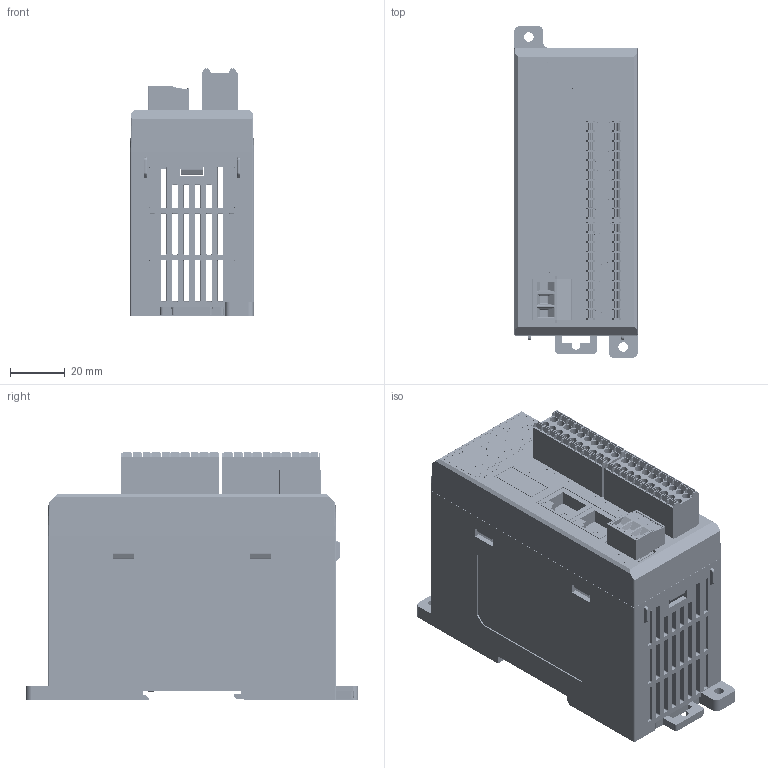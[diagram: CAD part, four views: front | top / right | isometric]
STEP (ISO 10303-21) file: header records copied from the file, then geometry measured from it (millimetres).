
FILE_DESCRIPTION((''),'2;1');
FILE_NAME('RXEC_ASM','2023-07-21T14:52:20',('Lenovo'),(''),'CREO PARAMETRIC BY PTC INC, 2020033','CREO PARAMETRIC BY PTC INC, 2020033','');
FILE_SCHEMA(('CONFIG_CONTROL_DESIGN'));
Products named in the file (21): BASE; COVER; PCB-M-01; DIANYUANCHAZUO; RJ45-HR913550A; ERD10X10; CBT-0810XXF-52-20PIN; WF12506-03200; PCB-M-01_ASM; PCB-M-02; JIEXIANDUANZI-CHAZUO-2X10PIN; PCB-M-02_ASM; PCB-LED; LED; CBT-0810XXM-52-20PIN; PCB-LED_ASM; KAKOU-105; DENGGAI; TERMINAL-COMMON-2X10; 00; RXEC_ASM
Assembly tree (59 placements, depth 3):
  RXEC_ASM
    BASE
    COVER
    PCB-M-01_ASM
      PCB-M-01
      DIANYUANCHAZUO
      RJ45-HR913550A  x2
      ERD10X10  x2
      CBT-0810XXF-52-20PIN
      WF12506-03200
    PCB-M-02_ASM
      PCB-M-02
      JIEXIANDUANZI-CHAZUO-2X10PIN  x2
    PCB-LED_ASM
      PCB-LED
      LED  x36
      CBT-0810XXM-52-20PIN
    KAKOU-105
    DENGGAI
    TERMINAL-COMMON-2X10  x2
    00
Bounding box: 45 x 121 x 90.5 mm (x, y, z)
Volume: 111836.9 mm3; surface area: 131021.7 mm2
Topology: 56 solids, 56 shells, 12084 faces, 32789 edges, 21650 vertices
Faces by surface type: plane 8113, extrusion 2810, cylinder 886, bspline 182, cone 53, torus 28, sphere 12
Entity records: 334943 total; most frequent: CARTESIAN_POINT 88886, ORIENTED_EDGE 55224, DIRECTION 40159, EDGE_CURVE 27612, VECTOR 22843, LINE 20033, VERTEX_POINT 18260, EDGE_LOOP 11138
